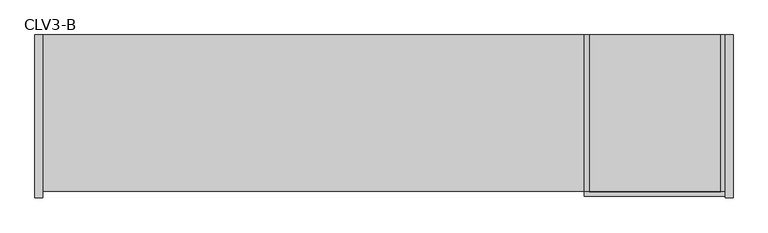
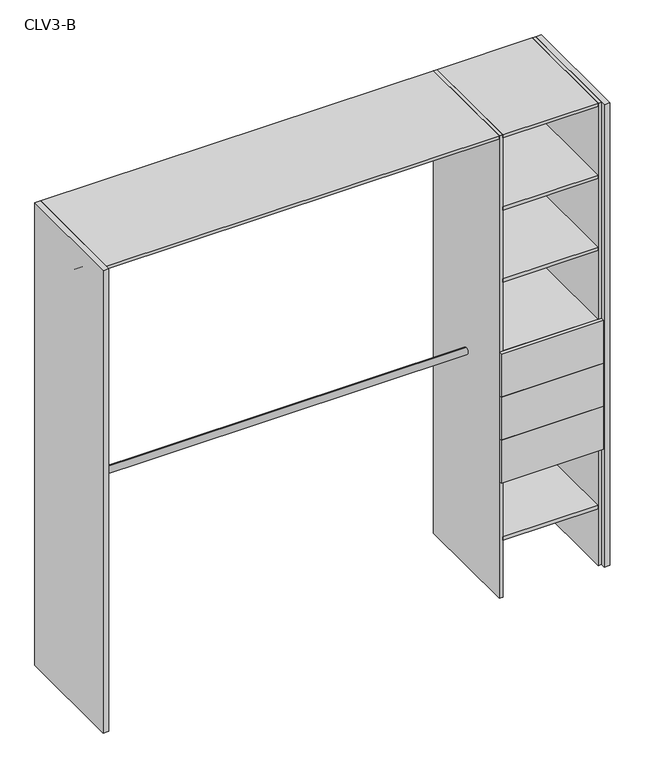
"""IFC4 building model written with IfcOpenShell, lengths in millimetres: furniture geometry, Closet 1estantes-1tubos_2 laterales : CLV3-B."""

import ifcopenshell
import ifcopenshell.guid

model = None  # the IFC model being written
_history = None  # IfcOwnerHistory: only IFC2X3 demands one
_inside = {}  # id of a spatial element -> (the spatial element, [elements in it])
_under = {}  # id of a project, library or spatial element -> (it, [spatial elements below it])
_declared = {}  # id of a project -> (the project, [libraries it declares])
_typed = {}  # id of a type object -> (the type object, [elements of that type])
_made_of = {}  # id of a material, layer set ... -> (it, [elements and type objects made of it])


def new_model(schema):
    """Start an empty IFC model of exactly this schema.

    Asked for "IFC4X3", IfcOpenShell would pick the latest addendum, in which some entities
    have other attributes; the version numbers below select the first issue.
    IFC2X3 requires an IfcOwnerHistory on every rooted entity: one is made here for all.
    """
    global model, _history
    if schema == "IFC4X3":
        model = ifcopenshell.file(schema_version=(4, 3, 0, 0))
    else:
        model = ifcopenshell.file(schema=schema)
    _inside.clear()
    _under.clear()
    _declared.clear()
    _typed.clear()
    _made_of.clear()
    _history = None
    if model.schema == "IFC2X3":
        org = make("IfcOrganization", Name="unknown")
        user = make(
            "IfcPersonAndOrganization",
            ThePerson=make("IfcPerson", FamilyName="unknown"),
            TheOrganization=org,
        )
        app = make(
            "IfcApplication",
            ApplicationDeveloper=org,
            Version="unknown",
            ApplicationFullName="unknown",
            ApplicationIdentifier="unknown",
        )
        _history = make(
            "IfcOwnerHistory",
            OwningUser=user,
            OwningApplication=app,
            ChangeAction="ADDED",
            CreationDate=0,
        )
    return model


def make(cls, **values):
    """One entity of the class cls with the attributes given. An attribute that is None is left unset."""
    return model.create_entity(
        cls, **{name: value for name, value in values.items() if value is not None}
    )


def rooted(cls, **values):
    """An entity with a GlobalId (a new one), such as an element, a storey or a relation."""
    return make(cls, GlobalId=ifcopenshell.guid.new(), OwnerHistory=_history, **values)


def si_unit(unit_type, name, prefix=None):
    """IfcSIUnit, for example si_unit("LENGTHUNIT", "METRE", prefix="MILLI")."""
    return make("IfcSIUnit", UnitType=unit_type, Prefix=prefix, Name=name)


def assignment(units):
    """IfcUnitAssignment: the units of a project."""
    return None if units is None else make("IfcUnitAssignment", Units=units)


def point(xyz):
    """IfcCartesianPoint."""
    return None if xyz is None else make("IfcCartesianPoint", Coordinates=xyz)


def direction(xyz):
    """IfcDirection."""
    return None if xyz is None else make("IfcDirection", DirectionRatios=xyz)


def frame(location, z_axis=None, x_axis=None):
    """IfcAxis2Placement3D, a coordinate frame: its origin and axes. An axis left out is left unset."""
    return make(
        "IfcAxis2Placement3D",
        Location=point(location),
        Axis=direction(z_axis),
        RefDirection=direction(x_axis),
    )


def frame_2d(location, x_axis=None):
    """IfcAxis2Placement2D, a coordinate frame in the plane: its origin and x axis."""
    return make(
        "IfcAxis2Placement2D", Location=point(location), RefDirection=direction(x_axis)
    )


def origin():
    """The frame at (0, 0, 0) with its axes left unset."""
    return frame((0.0, 0.0, 0.0))


def origin_with_axes():
    """The frame at (0, 0, 0) with the z axis (0, 0, 1) and the x axis (1, 0, 0) written out."""
    return frame((0.0, 0.0, 0.0), z_axis=(0.0, 0.0, 1.0), x_axis=(1.0, 0.0, 0.0))


def place(relative_to, where):
    """IfcLocalPlacement: puts the frame where relative to a parent placement (None: the world)."""
    return make(
        "IfcLocalPlacement", PlacementRelTo=relative_to, RelativePlacement=where
    )


def context(
    kind, dimensions, precision=None, world=None, true_north=None, identifier=None
):
    """IfcGeometricRepresentationContext, for example the 3D "Model" context."""
    return make(
        "IfcGeometricRepresentationContext",
        ContextIdentifier=identifier,
        ContextType=kind,
        CoordinateSpaceDimension=dimensions,
        Precision=precision,
        WorldCoordinateSystem=world,
        TrueNorth=true_north,
    )


def project(units=None, contexts=None):
    """IfcProject with its units and contexts."""
    return rooted(
        "IfcProject",
        Name="project",
        RepresentationContexts=contexts,
        UnitsInContext=assignment(units),
    )


def spatial(cls, under=None, at=None, **own):
    """A site, building, storey or space (cls), placed at a placement, below another one or the project."""
    s = rooted(cls, ObjectPlacement=at, **own)
    if under is not None:
        _under.setdefault(under.id(), (under, []))[1].append(s)
    return s


def polyline(points):
    """IfcPolyline through the points."""
    return make("IfcPolyline", Points=[point(p) for p in points])


def circle_curve(where, radius):
    """IfcCircle in the frame where."""
    return make("IfcCircle", Position=where, Radius=radius)


def trimmed(basis, trim1, trim2, sense, master):
    """IfcTrimmedCurve: the piece of a basis curve between two trims."""
    return make(
        "IfcTrimmedCurve",
        BasisCurve=basis,
        Trim1=trim1,
        Trim2=trim2,
        SenseAgreement=sense,
        MasterRepresentation=master,
    )


def segment(curve, same_sense, transition):
    """IfcCompositeCurveSegment."""
    return make(
        "IfcCompositeCurveSegment",
        Transition=transition,
        SameSense=same_sense,
        ParentCurve=curve,
    )


def composite_curve(segments, self_intersect=None):
    """IfcCompositeCurve: segments joined end to end."""
    return make("IfcCompositeCurve", Segments=segments, SelfIntersect=self_intersect)


def outline(outer, holes=None, kind="AREA"):
    """IfcArbitraryClosedProfileDef: a profile drawn as a closed curve; with holes, ...WithVoids."""
    if holes is None:
        return make("IfcArbitraryClosedProfileDef", ProfileType=kind, OuterCurve=outer)
    return make(
        "IfcArbitraryProfileDefWithVoids",
        ProfileType=kind,
        OuterCurve=outer,
        InnerCurves=holes,
    )


def extrude(swept, where, along, depth):
    """IfcExtrudedAreaSolid: the profile swept, set in the frame where, extruded along a direction by depth."""
    return make(
        "IfcExtrudedAreaSolid",
        SweptArea=swept,
        Position=where,
        ExtrudedDirection=direction(along),
        Depth=depth,
    )


def shape(context_of_items, identifier, shape_type, items):
    """IfcShapeRepresentation: the items that make up one representation, for example the "Body"."""
    return make(
        "IfcShapeRepresentation",
        ContextOfItems=context_of_items,
        RepresentationIdentifier=identifier,
        RepresentationType=shape_type,
        Items=items,
    )


def source(mapping_origin, context_of_items, identifier, shape_type, items):
    """IfcRepresentationMap: a shape defined once, which mapped items show again and again."""
    return make(
        "IfcRepresentationMap",
        MappingOrigin=mapping_origin,
        MappedRepresentation=shape(context_of_items, identifier, shape_type, items),
    )


def transform(
    local_origin,
    x_axis=None,
    y_axis=None,
    z_axis=None,
    scale=None,
    scale2=None,
    scale3=None,
    uniform=True,
):
    """IfcCartesianTransformationOperator3D, or its non-uniform kind. x_axis, y_axis, z_axis: its Axis1, 2, 3."""
    if uniform:
        return make(
            "IfcCartesianTransformationOperator3D",
            Axis1=direction(x_axis),
            Axis2=direction(y_axis),
            LocalOrigin=point(local_origin),
            Scale=scale,
            Axis3=direction(z_axis),
        )
    return make(
        "IfcCartesianTransformationOperator3DnonUniform",
        Axis1=direction(x_axis),
        Axis2=direction(y_axis),
        LocalOrigin=point(local_origin),
        Scale=scale,
        Axis3=direction(z_axis),
        Scale2=scale2,
        Scale3=scale3,
    )


def mapped(mapping_source, mapping_target):
    """IfcMappedItem: shows the shape of a source again, moved by a transform."""
    return make(
        "IfcMappedItem", MappingSource=mapping_source, MappingTarget=mapping_target
    )


def made_of(thing, what):
    """Note that an element or type object is made of a material, layer set ...; save() writes the relation."""
    if what is not None:
        _made_of.setdefault(what.id(), (what, []))[1].append(thing)
    return thing


def element(
    cls,
    number,
    at=None,
    inside=None,
    cuts=None,
    type_object=None,
    material=None,
    context=None,
    identifier="Body",
    shape_type=None,
    held_by="IfcProductDefinitionShape",
    body=None,
    shapes=None,
    **own,
):
    """One element of the class cls, such as IfcWall. Its Tag is "e" and its number.

    at: its placement. inside: the storey or other place that contains it. cuts: it is an
    opening in that element (IfcRelVoidsElement). A single representation is given by context,
    identifier, shape_type and body (its items); several are given by shapes. held_by: the class
    of the entity that holds the representations. save() writes the other relations.
    """
    e = rooted(cls, Tag="e%d" % number, ObjectPlacement=at, **own)
    if body is not None:
        shapes = [shape(context, identifier, shape_type, body)]
    if shapes is not None:
        e.Representation = make(held_by, Representations=shapes)
    if inside is not None:
        _inside.setdefault(inside.id(), (inside, []))[1].append(e)
    if cuts is not None:
        rooted(
            "IfcRelVoidsElement", RelatingBuildingElement=cuts, RelatedOpeningElement=e
        )
    if type_object is not None:
        _typed.setdefault(type_object.id(), (type_object, []))[1].append(e)
    return made_of(e, material)


def aggregate(whole, parts):
    """IfcRelAggregates: a whole, such as a stair, and the parts it consists of."""
    return rooted("IfcRelAggregates", RelatingObject=whole, RelatedObjects=parts)


def save(model, path):
    """Write the relations noted so far, then the file.

    IfcRelAggregates (storeys below a building ...), IfcRelContainedInSpatialStructure (elements
    in a storey), IfcRelDefinesByType, IfcRelAssociatesMaterial and IfcRelDeclares: one each for
    every whole, place, type object, material and project.
    """
    for whole, parts in _under.values():
        aggregate(whole, parts)
    for where, things in _inside.values():
        rooted(
            "IfcRelContainedInSpatialStructure",
            RelatedElements=things,
            RelatingStructure=where,
        )
    for kind, things in _typed.values():
        rooted("IfcRelDefinesByType", RelatedObjects=things, RelatingType=kind)
    for what, things in _made_of.values():
        rooted("IfcRelAssociatesMaterial", RelatedObjects=things, RelatingMaterial=what)
    for by, libraries in _declared.values():
        rooted("IfcRelDeclares", RelatingContext=by, RelatedDefinitions=libraries)
    model.write(path)


def clv3_b_376aaec2(model_context):
    return source(origin(), model_context, "Body", "SweptSolid", [
        extrude(outline(polyline([(-1954.8352485, 80.0), (-1979.8352485, 80.0), (-1979.8352485, 600.0), (-1954.8352485, 600.0), (-1954.8352485, 80.0)])), origin_with_axes(), (0.0, 0.0, 1.0), 2150.0),
        extrude(outline(polyline([(250.0, 80.0), (225.0, 80.0), (225.0, 600.0), (250.0, 600.0), (250.0, 80.0)])), origin_with_axes(), (0.0, 0.0, 1.0), 2150.0),
        extrude(outline(polyline([(225.0, 100.0), (210.0, 100.0), (210.0, 600.0), (225.0, 600.0), (225.0, 100.0)])), origin_with_axes(), (0.0, 0.0, 1.0), 2150.0),
        extrude(outline(polyline([(-210.0, 100.0), (-225.0, 100.0), (-225.0, 600.0), (-210.0, 600.0), (-210.0, 100.0)])), origin_with_axes(), (0.0, 0.0, 1.0), 2150.0),
        extrude(outline(polyline([(225.0, 100.0), (225.0, 85.0), (-225.0, 85.0), (-225.0, 100.0), (225.0, 100.0)])), frame((0.0, 0.0, 945.0), z_axis=(0.0, 0.0, 1.0), x_axis=(1.0, 0.0, 0.0)), (0.0, 0.0, 1.0), 200.0),
        extrude(outline(polyline([(225.0, 100.0), (225.0, 85.0), (-225.0, 85.0), (-225.0, 100.0), (225.0, 100.0)])), frame((0.0, 0.0, 745.0), z_axis=(0.0, 0.0, 1.0), x_axis=(1.0, 0.0, 0.0)), (0.0, 0.0, 1.0), 200.0),
        extrude(outline(polyline([(225.0, 100.0), (225.0, 85.0), (-225.0, 85.0), (-225.0, 100.0), (225.0, 100.0)])), frame((0.0, 0.0, 545.0), z_axis=(0.0, 0.0, 1.0), x_axis=(1.0, 0.0, 0.0)), (0.0, 0.0, 1.0), 200.0),
        extrude(outline(polyline([(210.0, 100.0), (-210.0, 100.0), (-210.0, 600.0), (210.0, 600.0), (210.0, 100.0)])), frame((0.0, 0.0, 1130.0), z_axis=(0.0, 0.0, 1.0), x_axis=(1.0, 0.0, 0.0)), (0.0, 0.0, 1.0), 15.0),
        extrude(outline(composite_curve([segment(trimmed(circle_curve(frame_2d((350.0, 2000.0)), 15.0), [point((350.0, 2015.0))], [point((350.0, 1985.0))], False, "CARTESIAN"), True, "CONTINUOUS"), segment(trimmed(circle_curve(frame_2d((350.0, 2000.0)), 15.0), [point((350.0, 1985.0))], [point((350.0, 2015.0))], False, "CARTESIAN"), True, "CONTINUOUS")], self_intersect=False)), frame((-1954.8352485, 0.0, 0.0), z_axis=(1.0, 0.0, 0.0), x_axis=(0.0, 1.0, 0.0)), (0.0, 0.0, 1.0), 1729.8352485),
        extrude(outline(composite_curve([segment(trimmed(circle_curve(frame_2d((350.0, 1000.0)), 15.0), [point((350.0, 1015.0))], [point((350.0, 985.0))], False, "CARTESIAN"), True, "CONTINUOUS"), segment(trimmed(circle_curve(frame_2d((350.0, 1000.0)), 15.0), [point((350.0, 985.0))], [point((350.0, 1015.0))], False, "CARTESIAN"), True, "CONTINUOUS")], self_intersect=False)), frame((-1954.8352485, 0.0, 0.0), z_axis=(1.0, 0.0, 0.0), x_axis=(0.0, 1.0, 0.0)), (0.0, 0.0, 1.0), 1729.8352485),
        extrude(outline(polyline([(210.0, 100.0), (-210.0, 100.0), (-210.0, 600.0), (210.0, 600.0), (210.0, 100.0)])), frame((0.0, 0.0, 265.0), z_axis=(0.0, 0.0, 1.0), x_axis=(1.0, 0.0, 0.0)), (0.0, 0.0, 1.0), 15.0),
        extrude(outline(polyline([(210.0, 100.0), (-210.0, 100.0), (-210.0, 600.0), (210.0, 600.0), (210.0, 100.0)])), frame((0.0, 0.0, 545.0), z_axis=(0.0, 0.0, 1.0), x_axis=(1.0, 0.0, 0.0)), (0.0, 0.0, 1.0), 15.0),
        extrude(outline(polyline([(210.0, 100.0), (-210.0, 100.0), (-210.0, 600.0), (210.0, 600.0), (210.0, 100.0)])), frame((0.0, 0.0, 1465.0), z_axis=(0.0, 0.0, 1.0), x_axis=(1.0, 0.0, 0.0)), (0.0, 0.0, 1.0), 15.0),
        extrude(outline(polyline([(210.0, 100.0), (-210.0, 100.0), (-210.0, 600.0), (210.0, 600.0), (210.0, 100.0)])), frame((0.0, 0.0, 1800.0), z_axis=(0.0, 0.0, 1.0), x_axis=(1.0, 0.0, 0.0)), (0.0, 0.0, 1.0), 15.0),
        extrude(outline(polyline([(-210.0, 100.0), (-1954.8352485, 100.0), (-1954.8352485, 600.0), (-210.0, 600.0), (-210.0, 100.0)])), frame((0.0, 0.0, 2135.0), z_axis=(0.0, 0.0, 1.0), x_axis=(1.0, 0.0, 0.0)), (0.0, 0.0, 1.0), 15.0),
        extrude(outline(polyline([(210.0, 100.0), (-210.0, 100.0), (-210.0, 600.0), (210.0, 600.0), (210.0, 100.0)])), frame((0.0, 0.0, 2135.0), z_axis=(0.0, 0.0, 1.0), x_axis=(1.0, 0.0, 0.0)), (0.0, 0.0, 1.0), 15.0),
    ])


if __name__ == "__main__":
    model = new_model("IFC4")
    model_context = context("Model", 3, world=origin())
    ifc_project = project(units=[si_unit("LENGTHUNIT", "METRE", prefix="MILLI")], contexts=[model_context])
    site = spatial("IfcSite", under=ifc_project)
    building = spatial("IfcBuilding", under=site)
    placement = place(None, origin())
    clv3_b_shape = clv3_b_376aaec2(model_context)
    element("IfcFurniture", 1, ObjectType="Closet 1estantes-1tubos_2 laterales : CLV3-B", at=placement, inside=building, context=model_context, shape_type="MappedRepresentation", body=[
        mapped(clv3_b_shape, transform((0.0, 0.0, 0.0), x_axis=(1.0, 0.0, 0.0), y_axis=(0.0, 1.0, 0.0), z_axis=(0.0, 0.0, 1.0))),
    ])
    save(model, "model.ifc")
